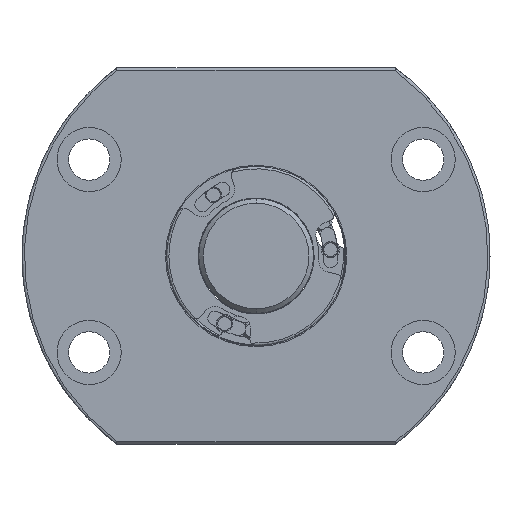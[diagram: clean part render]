
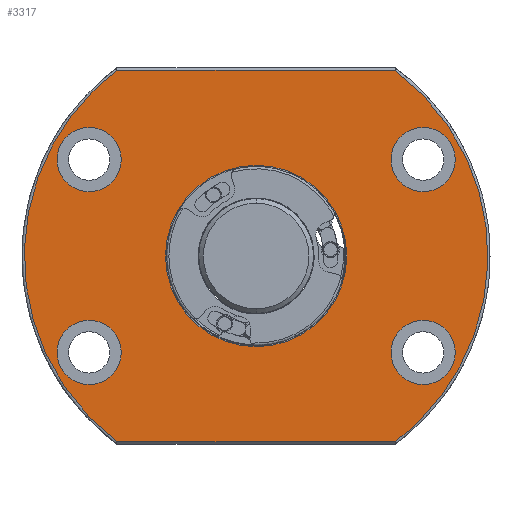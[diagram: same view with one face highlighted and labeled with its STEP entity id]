
A CAD part, left-side view. The second image highlights one B-rep face of the part: STEP entity #3317.
In plain terms, the highlighted planar face has unit normal (-1, 0, 0).
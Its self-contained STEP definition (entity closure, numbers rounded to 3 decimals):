
#8 = EDGE_CURVE ( 'NONE', #4589, #7618, #3112, .T. ) ;
#52 = AXIS2_PLACEMENT_3D ( 'NONE', #7887, #7245, #4171 ) ;
#103 = CARTESIAN_POINT ( 'NONE',  ( 0., -30.166, 40.5 ) ) ;
#116 = DIRECTION ( 'NONE',  ( 0., 0., 1. ) ) ;
#136 = EDGE_CURVE ( 'NONE', #567, #181, #7425, .T. ) ;
#181 = VERTEX_POINT ( 'NONE', #7345 ) ;
#190 = ORIENTED_EDGE ( 'NONE', *, *, #7115, .F. ) ;
#325 = EDGE_CURVE ( 'NONE', #5558, #3328, #1300, .T. ) ;
#481 = ORIENTED_EDGE ( 'NONE', *, *, #7417, .F. ) ;
#567 = VERTEX_POINT ( 'NONE', #4186 ) ;
#615 = CARTESIAN_POINT ( 'NONE',  ( 0., 36.373, -14. ) ) ;
#635 = DIRECTION ( 'NONE',  ( 0., 0., -1. ) ) ;
#669 =( BOUNDED_CURVE ( )  B_SPLINE_CURVE ( 3, ( #6387, #7012, #3327, #7615 ),
 .UNSPECIFIED., .F., .F. ) 
 B_SPLINE_CURVE_WITH_KNOTS ( ( 4, 4 ),
 ( 0., 1. ),
 .UNSPECIFIED. ) 
 CURVE ( )  GEOMETRIC_REPRESENTATION_ITEM ( )  RATIONAL_B_SPLINE_CURVE ( ( 1., 0.732, 0.732, 1. ) ) 
 REPRESENTATION_ITEM ( '' )  );
#671 = AXIS2_PLACEMENT_3D ( 'NONE', #6500, #5324, #4640 ) ;
#688 = FACE_BOUND ( 'NONE', #4390, .T. ) ;
#960 = DIRECTION ( 'NONE',  ( -1., 0., 0. ) ) ;
#993 = ORIENTED_EDGE ( 'NONE', *, *, #1881, .F. ) ;
#1017 = AXIS2_PLACEMENT_3D ( 'NONE', #7489, #3835, #4329 ) ;
#1120 = ORIENTED_EDGE ( 'NONE', *, *, #6335, .F. ) ;
#1207 = CIRCLE ( 'NONE', #3154, 7. ) ;
#1253 = CARTESIAN_POINT ( 'NONE',  ( 0., 0., 19.75 ) ) ;
#1285 = CARTESIAN_POINT ( 'NONE',  ( 0., -30.166, -40.5 ) ) ;
#1300 = CIRCLE ( 'NONE', #2865, 19.75 ) ;
#1324 = CIRCLE ( 'NONE', #7467, 7. ) ;
#1332 = CARTESIAN_POINT ( 'NONE',  ( 0., -59.765, 18.454 ) ) ;
#1437 = CARTESIAN_POINT ( 'NONE',  ( 0., -36.373, -21. ) ) ;
#1556 = VERTEX_POINT ( 'NONE', #4267 ) ;
#1721 = EDGE_LOOP ( 'NONE', ( #993, #6066, #481, #2523 ) ) ;
#1731 = ORIENTED_EDGE ( 'NONE', *, *, #5001, .F. ) ;
#1872 = DIRECTION ( 'NONE',  ( 0., 1., 0. ) ) ;
#1881 = EDGE_CURVE ( 'NONE', #181, #1556, #4907, .T. ) ;
#1905 = ORIENTED_EDGE ( 'NONE', *, *, #8, .F. ) ;
#1925 = EDGE_CURVE ( 'NONE', #3328, #5558, #2701, .T. ) ;
#1990 = EDGE_CURVE ( 'NONE', #1556, #5017, #669, .T. ) ;
#2107 = FACE_OUTER_BOUND ( 'NONE', #1721, .T. ) ;
#2113 = ORIENTED_EDGE ( 'NONE', *, *, #6864, .F. ) ;
#2114 = CIRCLE ( 'NONE', #6175, 7. ) ;
#2364 = CARTESIAN_POINT ( 'NONE',  ( 0., 36.373, 21. ) ) ;
#2386 = EDGE_LOOP ( 'NONE', ( #2113, #6032 ) ) ;
#2408 = FACE_BOUND ( 'NONE', #3218, .T. ) ;
#2497 = DIRECTION ( 'NONE',  ( -1., 0., 0. ) ) ;
#2523 = ORIENTED_EDGE ( 'NONE', *, *, #1990, .F. ) ;
#2531 = LINE ( 'NONE', #6967, #4050 ) ;
#2576 = ORIENTED_EDGE ( 'NONE', *, *, #5922, .F. ) ;
#2581 = CARTESIAN_POINT ( 'NONE',  ( 0., 0., -19.75 ) ) ;
#2660 = EDGE_CURVE ( 'NONE', #3739, #5524, #2114, .T. ) ;
#2681 = FACE_BOUND ( 'NONE', #2386, .T. ) ;
#2701 = CIRCLE ( 'NONE', #6530, 19.75 ) ;
#2713 = DIRECTION ( 'NONE',  ( -1., 0., 0. ) ) ;
#2739 = CIRCLE ( 'NONE', #52, 7. ) ;
#2741 = CARTESIAN_POINT ( 'NONE',  ( 0., -36.373, 21. ) ) ;
#2750 = DIRECTION ( 'NONE',  ( 0., 0., 1. ) ) ;
#2865 = AXIS2_PLACEMENT_3D ( 'NONE', #5769, #960, #4016 ) ;
#2976 = CARTESIAN_POINT ( 'NONE',  ( 0., 36.373, 28. ) ) ;
#3112 = CIRCLE ( 'NONE', #671, 7. ) ;
#3154 = AXIS2_PLACEMENT_3D ( 'NONE', #2741, #2713, #7606 ) ;
#3204 = DIRECTION ( 'NONE',  ( 0., -1., 0. ) ) ;
#3218 = EDGE_LOOP ( 'NONE', ( #1905, #190 ) ) ;
#3227 = DIRECTION ( 'NONE',  ( -1., 0., 0. ) ) ;
#3246 = FACE_BOUND ( 'NONE', #7008, .T. ) ;
#3280 = VERTEX_POINT ( 'NONE', #6004 ) ;
#3317 = ADVANCED_FACE ( 'NONE', ( #3543, #2408, #2681, #688, #3246, #2107 ), #4850, .F. ) ;
#3327 = CARTESIAN_POINT ( 'NONE',  ( 0., 59.765, 18.454 ) ) ;
#3328 = VERTEX_POINT ( 'NONE', #1253 ) ;
#3469 = EDGE_LOOP ( 'NONE', ( #1731, #1120 ) ) ;
#3525 = VERTEX_POINT ( 'NONE', #4655 ) ;
#3543 = FACE_BOUND ( 'NONE', #3469, .T. ) ;
#3616 = ORIENTED_EDGE ( 'NONE', *, *, #325, .F. ) ;
#3684 = CIRCLE ( 'NONE', #1017, 7. ) ;
#3739 = VERTEX_POINT ( 'NONE', #3752 ) ;
#3752 = CARTESIAN_POINT ( 'NONE',  ( 0., -36.373, -14. ) ) ;
#3823 = ORIENTED_EDGE ( 'NONE', *, *, #1925, .F. ) ;
#3835 = DIRECTION ( 'NONE',  ( -1., 0., 0. ) ) ;
#3850 = DIRECTION ( 'NONE',  ( -1., 0., 0. ) ) ;
#3926 = AXIS2_PLACEMENT_3D ( 'NONE', #7541, #3227, #6255 ) ;
#4016 = DIRECTION ( 'NONE',  ( 0., 0., 1. ) ) ;
#4050 = VECTOR ( 'NONE', #3204, 1000. ) ;
#4171 = DIRECTION ( 'NONE',  ( 0., 0., 1. ) ) ;
#4186 = CARTESIAN_POINT ( 'NONE',  ( 0., -30.166, 40.5 ) ) ;
#4267 = CARTESIAN_POINT ( 'NONE',  ( 0., 30.166, -40.5 ) ) ;
#4291 = VERTEX_POINT ( 'NONE', #615 ) ;
#4321 = CARTESIAN_POINT ( 'NONE',  ( 0., 30.166, 40.5 ) ) ;
#4329 = DIRECTION ( 'NONE',  ( 0., 0., 1. ) ) ;
#4390 = EDGE_LOOP ( 'NONE', ( #7100, #2576 ) ) ;
#4403 = EDGE_CURVE ( 'NONE', #5148, #3280, #1207, .T. ) ;
#4589 = VERTEX_POINT ( 'NONE', #2976 ) ;
#4640 = DIRECTION ( 'NONE',  ( 0., 0., 1. ) ) ;
#4655 = CARTESIAN_POINT ( 'NONE',  ( 0., 36.373, -28. ) ) ;
#4728 = CIRCLE ( 'NONE', #6714, 7. ) ;
#4736 = DIRECTION ( 'NONE',  ( 0., 0., 1. ) ) ;
#4810 = DIRECTION ( 'NONE',  ( -1., 0., 0. ) ) ;
#4850 = PLANE ( 'NONE',  #7872 ) ;
#4907 = LINE ( 'NONE', #5887, #6923 ) ;
#4932 = CARTESIAN_POINT ( 'NONE',  ( 0., -59.765, -18.454 ) ) ;
#5001 = EDGE_CURVE ( 'NONE', #4291, #3525, #1324, .T. ) ;
#5017 = VERTEX_POINT ( 'NONE', #4321 ) ;
#5148 = VERTEX_POINT ( 'NONE', #7458 ) ;
#5324 = DIRECTION ( 'NONE',  ( -1., 0., 0. ) ) ;
#5425 = CIRCLE ( 'NONE', #3926, 7. ) ;
#5524 = VERTEX_POINT ( 'NONE', #5642 ) ;
#5558 = VERTEX_POINT ( 'NONE', #2581 ) ;
#5642 = CARTESIAN_POINT ( 'NONE',  ( 0., -36.373, -28. ) ) ;
#5769 = CARTESIAN_POINT ( 'NONE',  ( 0., 0., 0. ) ) ;
#5887 = CARTESIAN_POINT ( 'NONE',  ( 0., 0., -40.5 ) ) ;
#5922 = EDGE_CURVE ( 'NONE', #5524, #3739, #2739, .T. ) ;
#6004 = CARTESIAN_POINT ( 'NONE',  ( 0., -36.373, 28. ) ) ;
#6032 = ORIENTED_EDGE ( 'NONE', *, *, #4403, .F. ) ;
#6066 = ORIENTED_EDGE ( 'NONE', *, *, #136, .F. ) ;
#6175 = AXIS2_PLACEMENT_3D ( 'NONE', #1437, #3850, #6959 ) ;
#6255 = DIRECTION ( 'NONE',  ( 0., 0., 1. ) ) ;
#6335 = EDGE_CURVE ( 'NONE', #3525, #4291, #5425, .T. ) ;
#6356 = DIRECTION ( 'NONE',  ( -1., 0., 0. ) ) ;
#6387 = CARTESIAN_POINT ( 'NONE',  ( 0., 30.166, -40.5 ) ) ;
#6421 = CARTESIAN_POINT ( 'NONE',  ( 0., 0., 0. ) ) ;
#6500 = CARTESIAN_POINT ( 'NONE',  ( 0., 36.373, 21. ) ) ;
#6530 = AXIS2_PLACEMENT_3D ( 'NONE', #6421, #6356, #2750 ) ;
#6712 = CARTESIAN_POINT ( 'NONE',  ( 0., 0., 0. ) ) ;
#6714 = AXIS2_PLACEMENT_3D ( 'NONE', #2364, #4810, #4736 ) ;
#6864 = EDGE_CURVE ( 'NONE', #3280, #5148, #3684, .T. ) ;
#6923 = VECTOR ( 'NONE', #1872, 1000. ) ;
#6959 = DIRECTION ( 'NONE',  ( 0., 0., 1. ) ) ;
#6967 = CARTESIAN_POINT ( 'NONE',  ( 0., 0., 40.5 ) ) ;
#7008 = EDGE_LOOP ( 'NONE', ( #3823, #3616 ) ) ;
#7012 = CARTESIAN_POINT ( 'NONE',  ( 0., 59.765, -18.454 ) ) ;
#7100 = ORIENTED_EDGE ( 'NONE', *, *, #2660, .F. ) ;
#7115 = EDGE_CURVE ( 'NONE', #7618, #4589, #4728, .T. ) ;
#7167 = CARTESIAN_POINT ( 'NONE',  ( 0., 36.373, 14. ) ) ;
#7245 = DIRECTION ( 'NONE',  ( -1., 0., 0. ) ) ;
#7345 = CARTESIAN_POINT ( 'NONE',  ( 0., -30.166, -40.5 ) ) ;
#7408 = CARTESIAN_POINT ( 'NONE',  ( 0., 36.373, -21. ) ) ;
#7417 = EDGE_CURVE ( 'NONE', #5017, #567, #2531, .T. ) ;
#7425 =( BOUNDED_CURVE ( )  B_SPLINE_CURVE ( 3, ( #103, #1332, #4932, #1285 ),
 .UNSPECIFIED., .F., .T. ) 
 B_SPLINE_CURVE_WITH_KNOTS ( ( 4, 4 ),
 ( 0., 1. ),
 .UNSPECIFIED. ) 
 CURVE ( )  GEOMETRIC_REPRESENTATION_ITEM ( )  RATIONAL_B_SPLINE_CURVE ( ( 1., 0.732, 0.732, 1. ) ) 
 REPRESENTATION_ITEM ( '' )  );
#7458 = CARTESIAN_POINT ( 'NONE',  ( 0., -36.373, 14. ) ) ;
#7467 = AXIS2_PLACEMENT_3D ( 'NONE', #7408, #2497, #116 ) ;
#7489 = CARTESIAN_POINT ( 'NONE',  ( 0., -36.373, 21. ) ) ;
#7541 = CARTESIAN_POINT ( 'NONE',  ( 0., 36.373, -21. ) ) ;
#7606 = DIRECTION ( 'NONE',  ( 0., 0., 1. ) ) ;
#7615 = CARTESIAN_POINT ( 'NONE',  ( 0., 30.166, 40.5 ) ) ;
#7618 = VERTEX_POINT ( 'NONE', #7167 ) ;
#7872 = AXIS2_PLACEMENT_3D ( 'NONE', #6712, #7878, #635 ) ;
#7878 = DIRECTION ( 'NONE',  ( 1., 0., 0. ) ) ;
#7887 = CARTESIAN_POINT ( 'NONE',  ( 0., -36.373, -21. ) ) ;
